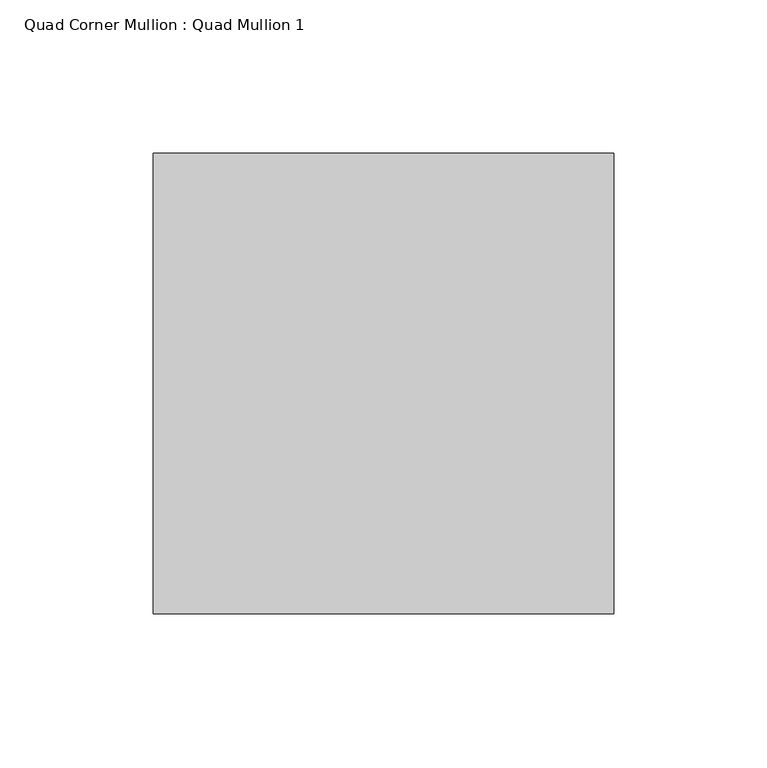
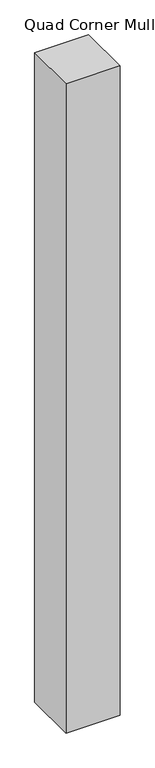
"""IFC4 building model written with IfcOpenShell, lengths in millimetres: member geometry, Quad Corner Mullion : Quad Mullion 1."""

from ifc_helpers import new_model, si_unit, frame, origin, place, context, project, spatial, polyline, outline, extrude, source, transform, mapped, element, save


def quad_corner_mullion_quad_mullion_1_01ad82a5(model_context):
    return source(origin(), model_context, "Body", "SweptSolid", [
        extrude(outline(polyline([(75.0, -75.0), (-75.0, -75.0), (-75.0, 75.0), (75.0, 75.0), (75.0, -75.0)])), frame((0.0, 0.0, -1904.4), z_axis=(0.0, 0.0, 1.0), x_axis=(1.0, 0.0, 0.0)), (0.0, 0.0, 1.0), 1904.4),
    ])


if __name__ == "__main__":
    model = new_model("IFC4")
    model_context = context("Model", 3, world=origin())
    ifc_project = project(units=[si_unit("LENGTHUNIT", "METRE", prefix="MILLI")], contexts=[model_context])
    site = spatial("IfcSite", under=ifc_project)
    building = spatial("IfcBuilding", under=site)
    placement = place(None, origin())
    quad_corner_mullion_quad_mullion_1_shape = quad_corner_mullion_quad_mullion_1_01ad82a5(model_context)
    element("IfcMember", 1, ObjectType="Quad Corner Mullion : Quad Mullion 1", at=placement, inside=building, context=model_context, shape_type="MappedRepresentation", body=[
        mapped(quad_corner_mullion_quad_mullion_1_shape, transform((0.0, 0.0, 0.0), x_axis=(1.0, 0.0, 0.0), y_axis=(0.0, 1.0, 0.0), z_axis=(0.0, 0.0, 1.0))),
    ])
    save(model, "model.ifc")
